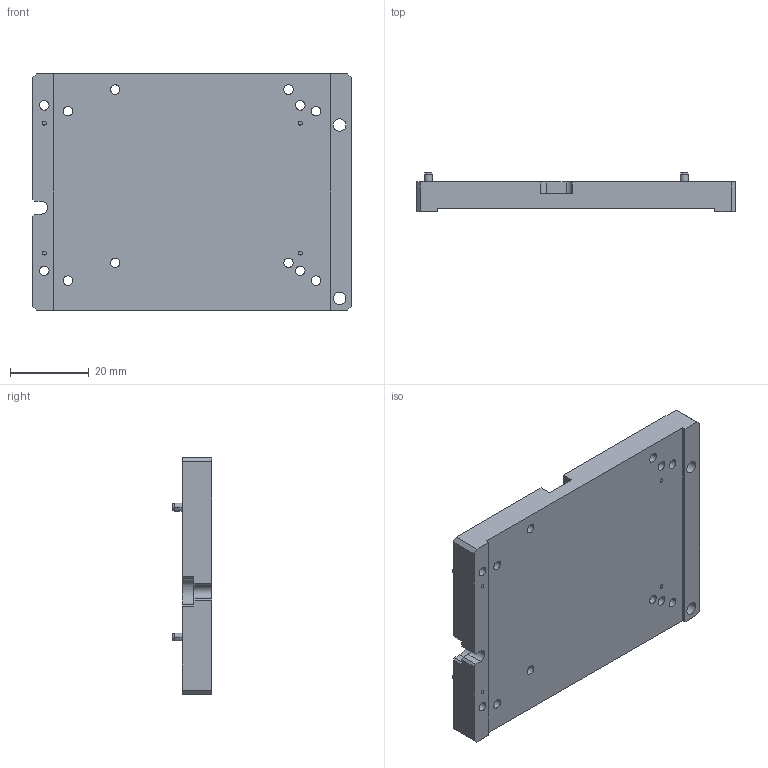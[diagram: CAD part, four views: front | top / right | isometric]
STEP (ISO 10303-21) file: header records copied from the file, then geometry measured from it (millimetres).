
FILE_DESCRIPTION(('CATIA V5 STEP Exchange','CAx-IF Rec.Pracs.--- Model Styling and Organization---1.4--- 2014-01-23','CAx-IF Rec.Pracs.---3D Tessellated Data Validation Properties---0.5---2014-09-14'),'2;1');
FILE_NAME('C:\Users\IS33\Desktop\220112移動データ\手配用データ\DT341M500-00-.stp','2022-01-12T06:16:45+00:00',('none'),('none'),'CATIA Version 5-6 Release 2019 SP3','CATIA V5 STEP AP242 v1','none');
FILE_SCHEMA(('AP242_MANAGED_MODEL_BASED_3D_ENGINEERING_MIM_LF {1 0 10303 442 1 1 4}'));
Length unit declared in the file: millimetre
Products named in the file (1): Base_plate_01_3-2a
Bounding box: 81 x 10 x 60 mm (x, y, z)
Volume: 28098.8 mm3; surface area: 13001.6 mm2
Topology: 5 solids, 5 shells, 128 faces, 330 edges, 218 vertices
Faces by surface type: cylinder 66, plane 54, cone 8
Entity records: 3682 total; most frequent: ORIENTED_EDGE 660, CARTESIAN_POINT 633, DIRECTION 498, EDGE_CURVE 330, AXIS2_PLACEMENT_3D 225, VERTEX_POINT 218, VECTOR 190, LINE 190
